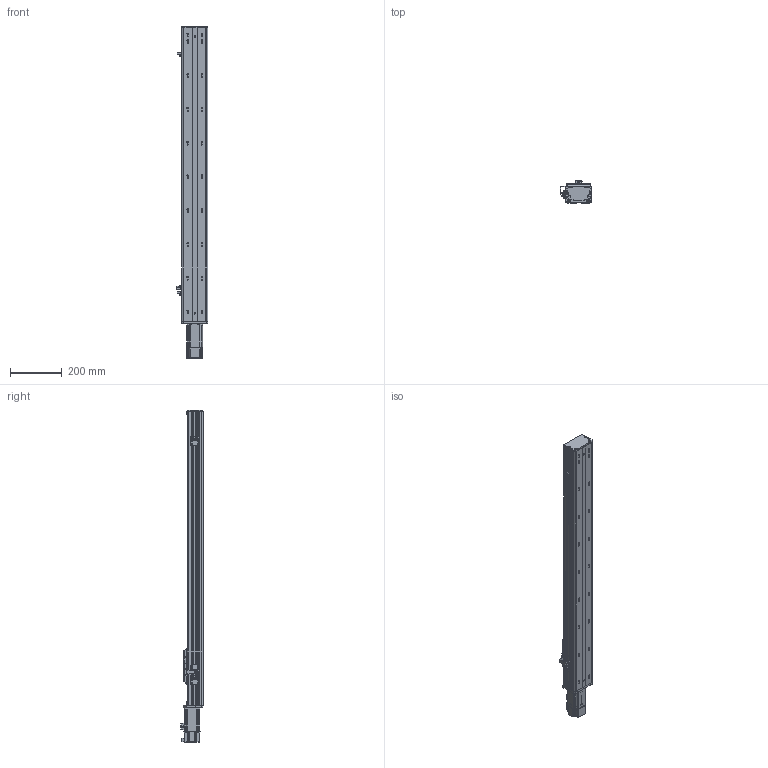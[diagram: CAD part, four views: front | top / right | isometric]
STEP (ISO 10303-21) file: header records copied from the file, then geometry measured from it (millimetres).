
FILE_DESCRIPTION (( 'STEP AP203' ), '1' );
FILE_NAME ('BOSW100-900-1610-1P-CM-M400W-O-S3（方程式2016）.step', '2020-10-10T06:37:09', ( '' ), ( '' ), 'SwSTEP 2.0', 'SolidWorks 2016', '' );
FILE_SCHEMA (( 'CONFIG_CONTROL_DESIGN' ));
Length unit declared in the file: millimetre
Products named in the file (13): 放大器内置U型微型光电传感器PM-L65; 俋境嫖覜嘐隅啣; 新结构AIMSW-100-1P-宽&高轨共用-滑动座上组件; BOSW-100-1P-CM-宽轨-侧板-900客户图纸; BOSW-100-CM-宽轨-三菱M200W&400W马达板(新结构); BOSW-100-綴裔啣; BOSW&TW-100-1P-賑雄釱欶; BOSW&TW-100-俋离覜茼え; S400W(SMA-L040); BOSW&TW-100-詩湍揤沭(陔賦凳); BOSW100-900-1610-1P-CM-M400W-O-S3（方程式2016）; BOSW-100-1P-CM-宽轨-钢带-900客户图纸; BOSW-100-1P-CM-900諦誧芞
Assembly tree (18 placements, depth 2):
  BOSW100-900-1610-1P-CM-M400W-O-S3（方程式2016）
    BOSW-100-1P-CM-900諦誧芞
    BOSW-100-綴裔啣
    新结构AIMSW-100-1P-宽&高轨共用-滑动座上组件
    S400W(SMA-L040)
    BOSW&TW-100-詩湍揤沭(陔賦凳)  x2
    BOSW&TW-100-1P-賑雄釱欶
    BOSW&TW-100-俋离覜茼え
    俋境嫖覜嘐隅啣  x3
    放大器内置U型微型光电传感器PM-L65  x3
    BOSW-100-CM-宽轨-三菱M200W&400W马达板(新结构)
    BOSW-100-1P-CM-宽轨-侧板-900客户图纸  x2
    BOSW-100-1P-CM-宽轨-钢带-900客户图纸
Bounding box: 120.9 x 85.5 x 1277.8 mm (x, y, z)
Volume: 2490517 mm3; surface area: 1112243.5 mm2
Topology: 18 solids, 18 shells, 2551 faces, 6744 edges, 4305 vertices
Faces by surface type: plane 1230, cylinder 837, bspline 271, cone 165, torus 36, sphere 12
Entity records: 70204 total; most frequent: CARTESIAN_POINT 20990, ORIENTED_EDGE 10028, DIRECTION 9764, EDGE_CURVE 5014, AXIS2_PLACEMENT_3D 3498, VERTEX_POINT 3207, LINE 2768, VECTOR 2768
